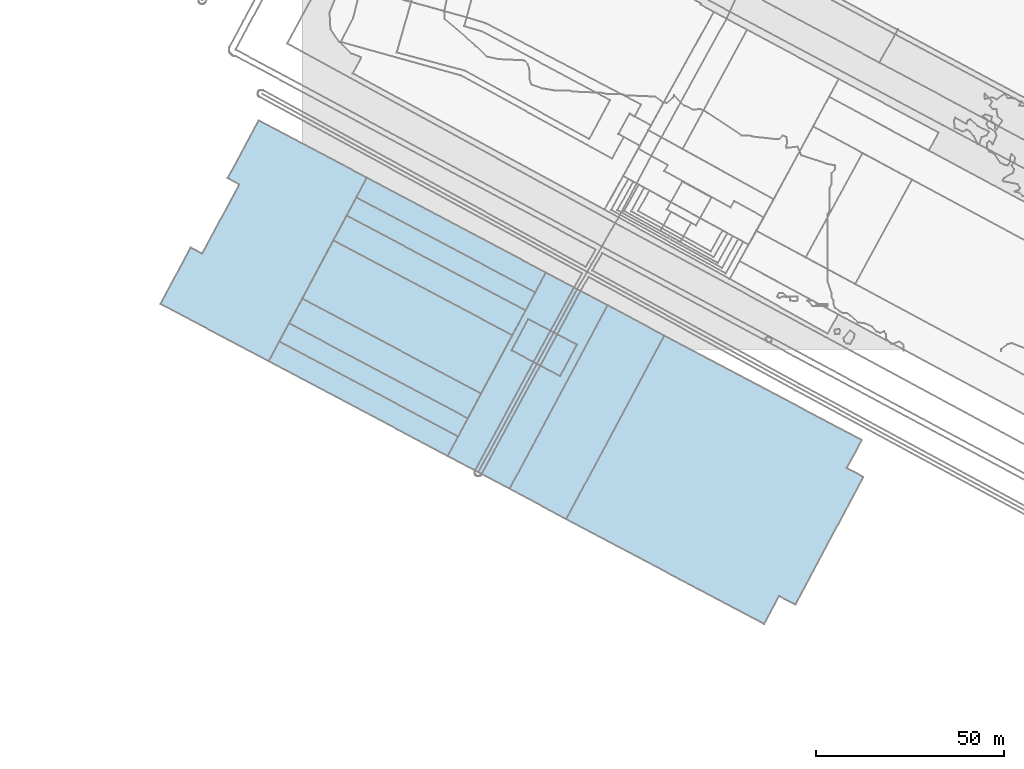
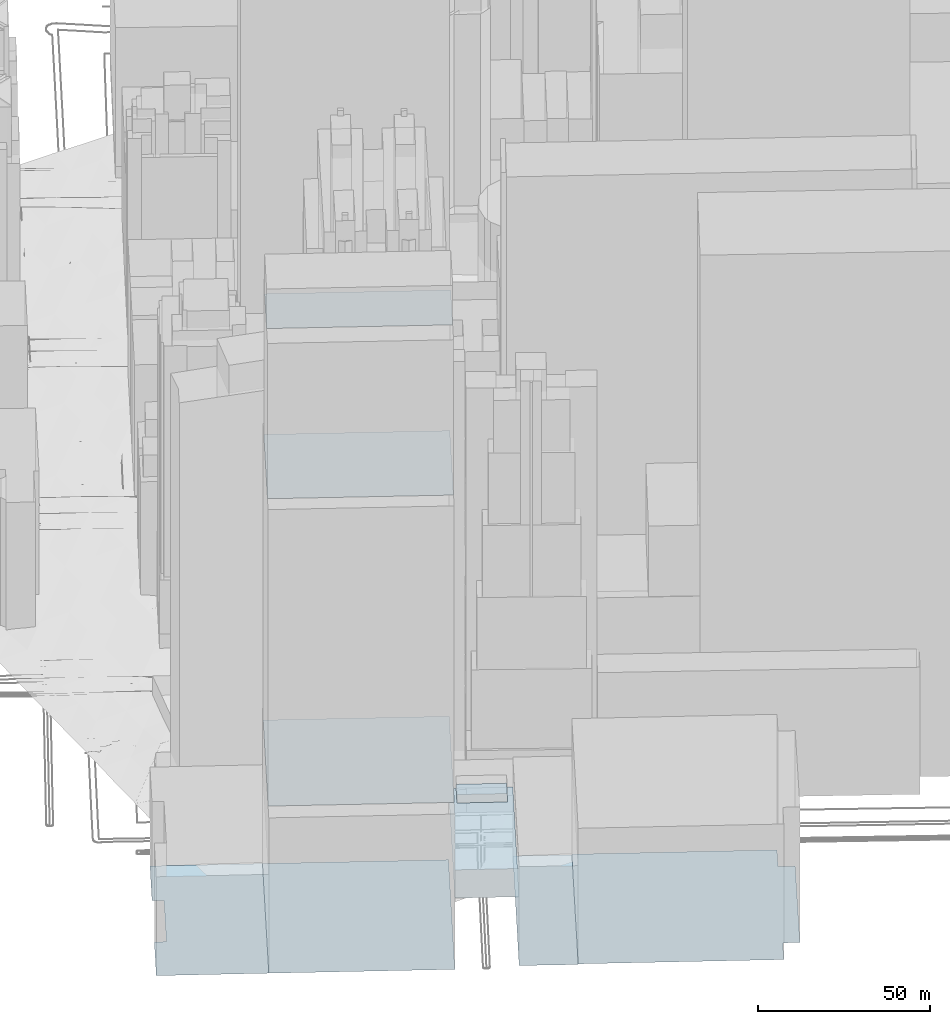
# Not in any storey, part 1 of 76: 9 footings.
"""IFC2X3 model written with IfcOpenShell, lengths in metres."""

from ifc_helpers import new_model, si_unit, frame, origin_with_axes, place, context, subcontext, project, faceted_brep, element, save


model = new_model("IFC2X3")

# Units and contexts
model_context = context("Model", 3, precision=1e-05, world=origin_with_axes())
body_context = subcontext(model_context, "Body", "Model", "MODEL_VIEW")
ifc_project = project(units=[si_unit("AREAUNIT", "SQUARE_METRE"), si_unit("LENGTHUNIT", "METRE")], contexts=[model_context])

# Footings
footing_1_placement = place(None, frame((70.4319082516, -45.3124381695, 19.6413035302), z_axis=(0.0, 0.0, 1.0), x_axis=(1.0, 0.0, 0.0)))
element("IfcFooting", 1, at=footing_1_placement, Name="Sol 0", PredefinedType="STRIP_FOOTING", context=body_context, shape_type="Brep", body=[
    faceted_brep([(52.7563009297, -27.9312178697, 0.0), (0.0, 0.0, 0.0), (26.1498243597, 48.9425792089, 0.0), (79.2214604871, 11.2896457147, 0.0), (61.1215341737, -22.7936176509, 0.0), (56.721804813, -20.4799520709, 0.0), (78.7949988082, 21.1101810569, 0.0), (74.804734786, 13.6142050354, 0.0)], [[[0, 1, 2]], [[3, 4, 5]], [[2, 6, 7]], [[5, 0, 2]], [[7, 3, 5]], [[5, 2, 7]]]),
])
footing_2_placement = place(None, frame((-37.764592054, 12.0631870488, 18.5499973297), z_axis=(0.0, 0.0, 1.0), x_axis=(1.0, 0.0, 0.0)))
element("IfcFooting", 2, at=footing_2_placement, Name="Sol 0", PredefinedType="STRIP_FOOTING", context=body_context, shape_type="Brep", body=[
    faceted_brep([(28.8870060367, -15.2414440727, 0.0), (0.0, 0.0, 0.0), (8.0475860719, 15.0591407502, 0.0), (26.1587518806, 48.9422915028, 0.0), (55.0371870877, 33.7008524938, 0.0), (21.0212047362, 31.907372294, 0.0), (17.9295410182, 33.536852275, 0.0), (11.1393837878, 13.4185558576, 0.0)], [[[0, 1, 2]], [[3, 4, 0]], [[5, 6, 3]], [[0, 2, 7]], [[5, 3, 0]], [[0, 7, 5]]]),
])
footing_3_placement = place(None, frame((0.0457305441, 13.5231043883, 233.5817263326), z_axis=(0.0, 0.0, 1.0), x_axis=(1.0, 0.0, 0.0)))
element("IfcFooting", 3, at=footing_3_placement, Name="Sol 0", PredefinedType="STRIP_FOOTING", context=body_context, shape_type="Brep", body=[
    faceted_brep([(47.6860402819, -25.3593207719, 0.0), (0.0, 0.0, 0.0), (8.2954448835, 15.5172515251, 0.0), (56.0060946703, -9.7862176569, 0.0)], [[[0, 1, 2]], [[2, 3, 0]]]),
])
footing_4_placement = place(None, frame((-3.482289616, 6.9207531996, 178.5499973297), z_axis=(0.0, 0.0, 1.0), x_axis=(1.0, 0.0, 0.0)))
element("IfcFooting", 4, at=footing_4_placement, Name="Sol 0", PredefinedType="STRIP_FOOTING", context=body_context, shape_type="Brep", body=[
    faceted_brep([(47.6860692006, -25.359343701, 0.0), (0.0, 0.0, 0.0), (15.3430229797, 28.7218621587, 0.0), (63.0622131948, 3.4074130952, 0.0)], [[[0, 1, 2]], [[2, 3, 0]]]),
])
footing_5_placement = place(None, frame((-6.0684346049, 2.0834835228, 73.5499973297), z_axis=(0.0, 0.0, 1.0), x_axis=(1.0, 0.0, 0.0)))
element("IfcFooting", 5, at=footing_5_placement, Name="Sol 0", PredefinedType="STRIP_FOOTING", context=body_context, shape_type="Brep", body=[
    faceted_brep([(47.6862192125, -25.3704612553, 0.0), (0.0, 0.0, 0.0), (20.5236005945, 38.4076070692, 0.0), (68.234328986, 13.0930768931, 0.0)], [[[0, 1, 2]], [[2, 3, 0]]]),
])
footing_6_placement = place(None, frame((-8.8775860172, -3.1782570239, 18.5499973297), z_axis=(0.0, 0.0, 1.0), x_axis=(1.0, 0.0, 0.0)))
element("IfcFooting", 6, at=footing_6_placement, Name="Sol 0", PredefinedType="STRIP_FOOTING", context=body_context, shape_type="Brep", body=[
    faceted_brep([(47.7107911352, -25.3035811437, 0.0), (0.0, 0.0, 0.0), (26.150181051, 48.9422965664, 0.0), (73.869197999, 23.6389834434, 0.0)], [[[0, 1, 2]], [[2, 3, 0]]]),
])
footing_7_placement = place(None, frame((55.3366535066, -37.1942935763, 19.4063848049), z_axis=(0.0, 0.0, 1.0), x_axis=(1.0, 0.0, 0.0)))
element("IfcFooting", 7, at=footing_7_placement, Name="Sol 0", PredefinedType="STRIP_FOOTING", context=body_context, shape_type="Brep", body=[
    faceted_brep([(15.095254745, -8.1181445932, 0.0), (0.0, 0.0, 0.0), (26.1500207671, 48.9314246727, 0.0), (41.2450791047, 40.8244346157, 0.0)], [[[0, 1, 2]], [[2, 3, 0]]]),
])
footing_8_placement = place(None, frame((55.8285008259, -0.2958209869, 54.4127792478), z_axis=(0.0, 0.0, 1.0), x_axis=(1.0, 0.0, 0.0)))
element("IfcFooting", 8, at=footing_8_placement, Name="Sol 0", PredefinedType="STRIP_FOOTING", context=body_context, shape_type="Brep", body=[
    faceted_brep([(13.0041051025, -6.8767632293, 0.0), (0.0, 0.0, 0.0), (4.453084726, 8.356171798, 0.0), (17.4570509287, 1.4905172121, 0.0)], [[[0, 1, 2]], [[2, 3, 0]]]),
])
footing_9_placement = place(None, frame((38.833205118, -28.4818381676, 43.7777920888), z_axis=(0.0, 0.0, 1.0), x_axis=(1.0, 0.0, 0.0)))
element("IfcFooting", 9, at=footing_9_placement, Name="Sol 0", PredefinedType="STRIP_FOOTING", context=body_context, shape_type="Brep", body=[
    faceted_brep([(16.5034483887, -8.7124554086, 0.0), (0.0, 0.0, 0.0), (26.1584068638, 48.9425645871, 0.0), (42.6534691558, 40.2189692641, 0.0)], [[[0, 1, 2]], [[2, 3, 0]]]),
])

save(model, "model.ifc")
